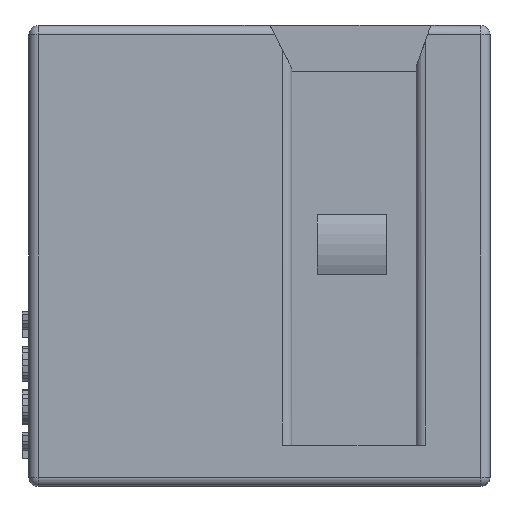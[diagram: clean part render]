
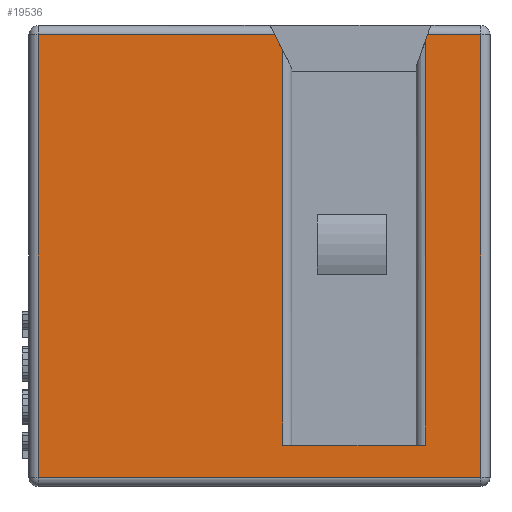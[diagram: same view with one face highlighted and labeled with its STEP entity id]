
A CAD part, front view. The second image highlights one B-rep face of the part: STEP entity #19536.
In plain terms, the highlighted planar face has unit normal (0, -1, 0).
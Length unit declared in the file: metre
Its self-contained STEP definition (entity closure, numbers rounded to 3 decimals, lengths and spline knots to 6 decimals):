
#1860=DIRECTION('',(-0.45,0.,0.893));
#1861=VECTOR('',#1860,0.000378);
#1862=CARTESIAN_POINT('',(0.000502,0.,0.008712));
#1863=LINE('',#1862,#1861);
#1864=DIRECTION('',(-0.337,0.,-0.941));
#1865=VECTOR('',#1864,0.000147);
#1866=CARTESIAN_POINT('',(0.003647,0.,0.00905));
#1867=LINE('',#1866,#1865);
#1917=DIRECTION('',(1.,0.,0.));
#1918=VECTOR('',#1917,0.003096);
#1919=CARTESIAN_POINT('',(0.000502,0.,0.00015));
#1920=LINE('',#1919,#1918);
#1934=CARTESIAN_POINT('',(0.003598,0.,0.008912));
#1947=DIRECTION('',(0.,0.,1.));
#1948=VECTOR('',#1947,0.008762);
#1949=CARTESIAN_POINT('',(0.003598,0.,0.00015));
#1950=LINE('',#1949,#1948);
#1951=DIRECTION('',(0.,0.,-1.));
#1952=VECTOR('',#1951,0.008562);
#1953=CARTESIAN_POINT('',(0.000502,0.,0.008712));
#1954=LINE('',#1953,#1952);
#1988=DIRECTION('',(1.,0.,0.));
#1989=VECTOR('',#1988,0.005132);
#1990=CARTESIAN_POINT('',(-0.0048,0.,0.00905));
#1991=LINE('',#1990,#1989);
#2012=DIRECTION('',(0.,0.,1.));
#2013=VECTOR('',#2012,0.0096);
#2014=CARTESIAN_POINT('',(-0.0048,0.,-0.00055));
#2015=LINE('',#2014,#2013);
#9049=DIRECTION('',(-1.,0.,0.));
#9050=VECTOR('',#9049,0.0096);
#9051=CARTESIAN_POINT('',(0.0048,0.,-0.00055));
#9052=LINE('',#9051,#9050);
#9076=DIRECTION('',(0.,0.,-1.));
#9077=VECTOR('',#9076,0.0096);
#9078=CARTESIAN_POINT('',(0.0048,0.,0.00905));
#9079=LINE('',#9078,#9077);
#9100=DIRECTION('',(1.,0.,0.));
#9101=VECTOR('',#9100,0.001153);
#9102=CARTESIAN_POINT('',(0.003647,0.,0.00905));
#9103=LINE('',#9102,#9101);
#9110=CARTESIAN_POINT('',(0.003647,0.,0.00905));
#13732=CARTESIAN_POINT('',(0.0048,0.,-0.00055));
#13733=VERTEX_POINT('',#13732);
#13734=CARTESIAN_POINT('',(0.0048,0.,0.00905));
#13735=VERTEX_POINT('',#13734);
#13740=CARTESIAN_POINT('',(-0.0048,0.,-0.00055));
#13741=VERTEX_POINT('',#13740);
#13818=VERTEX_POINT('',#1934);
#13819=CARTESIAN_POINT('',(0.003598,0.,0.00015));
#13820=VERTEX_POINT('',#13819);
#13821=VERTEX_POINT('',#9110);
#13824=CARTESIAN_POINT('',(0.000502,0.,0.008712));
#13825=CARTESIAN_POINT('',(0.000502,0.,0.00015));
#13826=VERTEX_POINT('',#13824);
#13827=VERTEX_POINT('',#13825);
#13828=CARTESIAN_POINT('',(-0.0048,0.,0.00905));
#13829=VERTEX_POINT('',#13828);
#13830=CARTESIAN_POINT('',(0.000332,0.,0.00905));
#13831=VERTEX_POINT('',#13830);
#19510=CARTESIAN_POINT('',(-0.005,0.,0.00925));
#19511=DIRECTION('',(0.,-1.,0.));
#19512=DIRECTION('',(1.,0.,0.));
#19513=AXIS2_PLACEMENT_3D('',#19510,#19511,#19512);
#19514=PLANE('',#19513);
#19516=ORIENTED_EDGE('',*,*,#19515,.F.);
#19518=ORIENTED_EDGE('',*,*,#19517,.T.);
#19520=ORIENTED_EDGE('',*,*,#19519,.T.);
#19522=ORIENTED_EDGE('',*,*,#19521,.T.);
#19523=ORIENTED_EDGE('',*,*,#19498,.F.);
#19525=ORIENTED_EDGE('',*,*,#19524,.T.);
#19527=ORIENTED_EDGE('',*,*,#19526,.T.);
#19529=ORIENTED_EDGE('',*,*,#19528,.T.);
#19531=ORIENTED_EDGE('',*,*,#19530,.T.);
#19533=ORIENTED_EDGE('',*,*,#19532,.T.);
#19534=EDGE_LOOP('',(#19516,#19518,#19520,#19522,#19523,#19525,#19527,#19529,
#19531,#19533));
#19535=FACE_OUTER_BOUND('',#19534,.F.);
#19536=ADVANCED_FACE('',(#19535),#19514,.T.);
#19498=EDGE_CURVE('',#13821,#13818,#1867,.T.);
#19515=EDGE_CURVE('',#13826,#13831,#1863,.T.);
#19517=EDGE_CURVE('',#13826,#13827,#1954,.T.);
#19519=EDGE_CURVE('',#13827,#13820,#1920,.T.);
#19521=EDGE_CURVE('',#13820,#13818,#1950,.T.);
#19524=EDGE_CURVE('',#13821,#13735,#9103,.T.);
#19526=EDGE_CURVE('',#13735,#13733,#9079,.T.);
#19528=EDGE_CURVE('',#13733,#13741,#9052,.T.);
#19530=EDGE_CURVE('',#13741,#13829,#2015,.T.);
#19532=EDGE_CURVE('',#13829,#13831,#1991,.T.);
